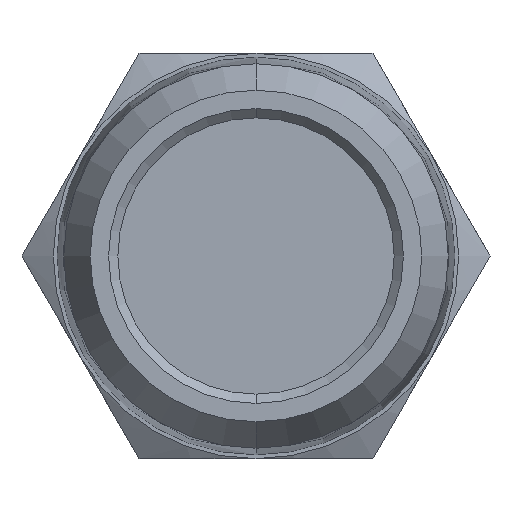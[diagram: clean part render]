
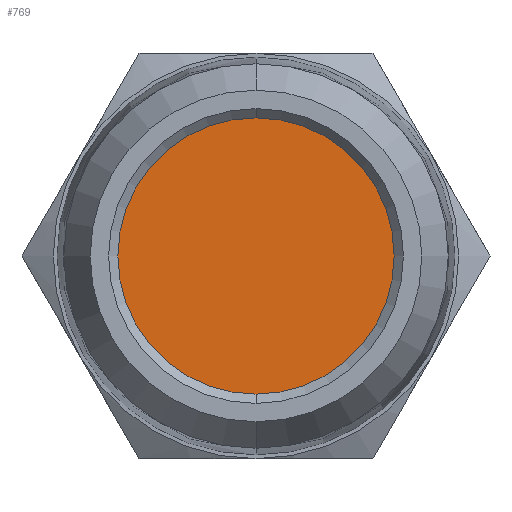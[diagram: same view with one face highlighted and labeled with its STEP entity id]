
A CAD part, front view. The second image highlights one B-rep face of the part: STEP entity #769.
In plain terms, the highlighted planar face has unit normal (0, -1, 0).
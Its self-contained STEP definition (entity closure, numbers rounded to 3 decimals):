
#13 = CARTESIAN_POINT ( 'NONE',  ( 0., 16., -7.5 ) ) ;
#31 = FACE_OUTER_BOUND ( 'NONE', #333, .T. ) ;
#33 = AXIS2_PLACEMENT_3D ( 'NONE', #1014, #1021, #1023 ) ;
#43 = EDGE_CURVE ( 'NONE', #1351, #1033, #915, .T. ) ;
#173 = DIRECTION ( 'NONE',  ( 0., -1., 0. ) ) ;
#269 = DIRECTION ( 'NONE',  ( 0., 0., -1. ) ) ;
#293 = CARTESIAN_POINT ( 'NONE',  ( 0., 16., 0. ) ) ;
#320 = CARTESIAN_POINT ( 'NONE',  ( 0., 16., 0. ) ) ;
#333 = EDGE_LOOP ( 'NONE', ( #629, #614 ) ) ;
#341 = AXIS2_PLACEMENT_3D ( 'NONE', #320, #576, #590 ) ;
#443 = PLANE ( 'NONE',  #341 ) ;
#576 = DIRECTION ( 'NONE',  ( 0., -1., 0. ) ) ;
#590 = DIRECTION ( 'NONE',  ( 0., 0., -1. ) ) ;
#614 = ORIENTED_EDGE ( 'NONE', *, *, #43, .T. ) ;
#629 = ORIENTED_EDGE ( 'NONE', *, *, #802, .T. ) ;
#769 = ADVANCED_FACE ( 'NONE', ( #31 ), #443, .T. ) ;
#802 = EDGE_CURVE ( 'NONE', #1033, #1351, #1364, .T. ) ;
#915 = CIRCLE ( 'NONE', #970, 7.5 ) ;
#970 = AXIS2_PLACEMENT_3D ( 'NONE', #293, #173, #269 ) ;
#1014 = CARTESIAN_POINT ( 'NONE',  ( 0., 16., 0. ) ) ;
#1021 = DIRECTION ( 'NONE',  ( 0., -1., 0. ) ) ;
#1023 = DIRECTION ( 'NONE',  ( 0., 0., -1. ) ) ;
#1033 = VERTEX_POINT ( 'NONE', #13 ) ;
#1327 = CARTESIAN_POINT ( 'NONE',  ( 0., 16., 7.5 ) ) ;
#1351 = VERTEX_POINT ( 'NONE', #1327 ) ;
#1364 = CIRCLE ( 'NONE', #33, 7.5 ) ;
